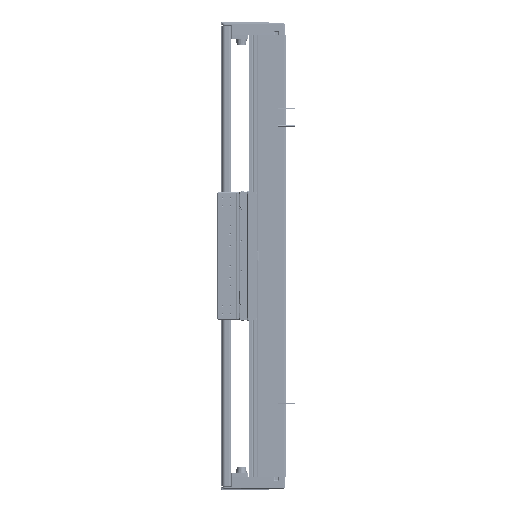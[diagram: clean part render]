
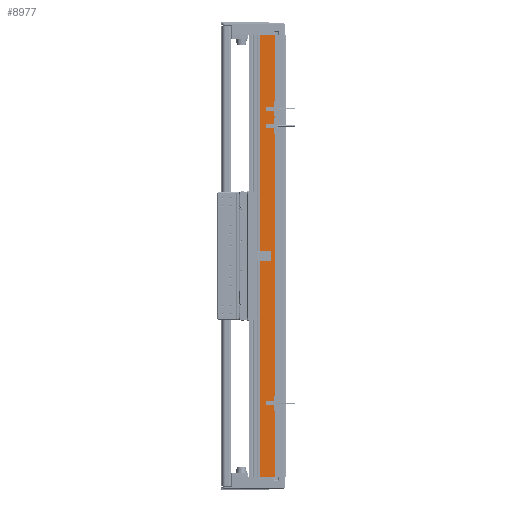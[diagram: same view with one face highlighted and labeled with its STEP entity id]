
A CAD part, left-side view. The second image highlights one B-rep face of the part: STEP entity #8977.
In plain terms, the highlighted planar face has unit normal (-1, 0, 0).
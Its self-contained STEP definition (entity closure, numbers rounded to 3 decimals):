
#683 = CARTESIAN_POINT ( 'NONE',  ( -97.5, 14.45, 330. ) ) ;
#1218 = CARTESIAN_POINT ( 'NONE',  ( -97.5, 36.95, 330. ) ) ;
#8977 = ADVANCED_FACE ( 'NONE', ( #88695 ), #18063, .F. ) ;
#10439 = VECTOR ( 'NONE', #72682, 1000. ) ;
#18063 = PLANE ( 'NONE',  #71510 ) ;
#19932 = CARTESIAN_POINT ( 'NONE',  ( -97.5, 36.95, -330. ) ) ;
#21551 = VERTEX_POINT ( 'NONE', #91102 ) ;
#22918 = DIRECTION ( 'NONE',  ( 0., -1., 0. ) ) ;
#30806 = VECTOR ( 'NONE', #42474, 1000. ) ;
#32176 = EDGE_LOOP ( 'NONE', ( #103318, #90906, #100112, #103451 ) ) ;
#40990 = DIRECTION ( 'NONE',  ( 0., 0., -1. ) ) ;
#42474 = DIRECTION ( 'NONE',  ( 0., 0., -1. ) ) ;
#44798 = CARTESIAN_POINT ( 'NONE',  ( -97.5, 36.95, 330. ) ) ;
#45033 = EDGE_CURVE ( 'NONE', #59424, #47485, #115019, .T. ) ;
#46849 = DIRECTION ( 'NONE',  ( 1., 0., 0. ) ) ;
#47485 = VERTEX_POINT ( 'NONE', #73204 ) ;
#49714 = VECTOR ( 'NONE', #22918, 1000. ) ;
#50591 = CARTESIAN_POINT ( 'NONE',  ( -97.5, 36.95, 330. ) ) ;
#59424 = VERTEX_POINT ( 'NONE', #50591 ) ;
#62531 = EDGE_CURVE ( 'NONE', #21551, #65005, #97274, .T. ) ;
#65005 = VERTEX_POINT ( 'NONE', #121119 ) ;
#68807 = DIRECTION ( 'NONE',  ( 0., 1., 0. ) ) ;
#71510 = AXIS2_PLACEMENT_3D ( 'NONE', #132540, #46849, #68807 ) ;
#72682 = DIRECTION ( 'NONE',  ( 0., -1., 0. ) ) ;
#72718 = EDGE_CURVE ( 'NONE', #59424, #21551, #129802, .T. ) ;
#73204 = CARTESIAN_POINT ( 'NONE',  ( -97.5, 36.95, -330. ) ) ;
#81221 = VECTOR ( 'NONE', #40990, 1000. ) ;
#85857 = EDGE_CURVE ( 'NONE', #47485, #65005, #122118, .T. ) ;
#88695 = FACE_OUTER_BOUND ( 'NONE', #32176, .T. ) ;
#90906 = ORIENTED_EDGE ( 'NONE', *, *, #62531, .F. ) ;
#91102 = CARTESIAN_POINT ( 'NONE',  ( -97.5, 14.45, 330. ) ) ;
#97274 = LINE ( 'NONE', #683, #30806 ) ;
#100112 = ORIENTED_EDGE ( 'NONE', *, *, #72718, .F. ) ;
#103318 = ORIENTED_EDGE ( 'NONE', *, *, #85857, .T. ) ;
#103451 = ORIENTED_EDGE ( 'NONE', *, *, #45033, .T. ) ;
#115019 = LINE ( 'NONE', #1218, #81221 ) ;
#121119 = CARTESIAN_POINT ( 'NONE',  ( -97.5, 14.45, -330. ) ) ;
#122118 = LINE ( 'NONE', #19932, #10439 ) ;
#129802 = LINE ( 'NONE', #44798, #49714 ) ;
#132540 = CARTESIAN_POINT ( 'NONE',  ( -97.5, 36.95, 330. ) ) ;
